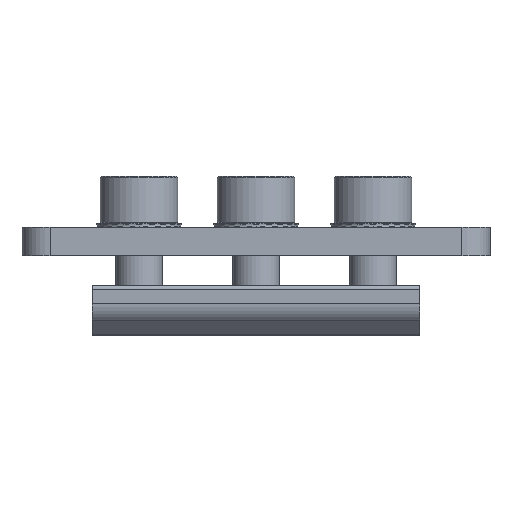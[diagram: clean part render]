
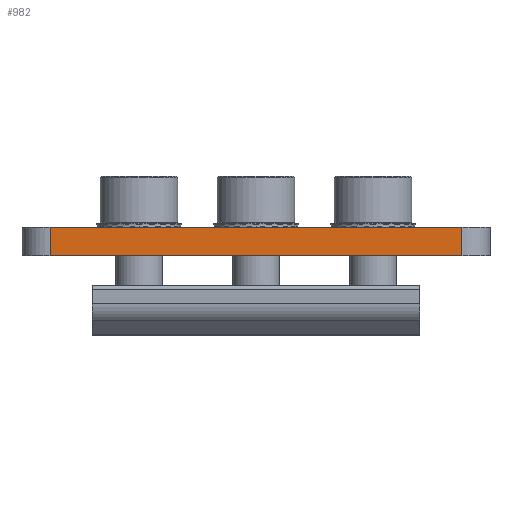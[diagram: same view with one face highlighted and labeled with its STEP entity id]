
A CAD part, front view. The second image highlights one B-rep face of the part: STEP entity #982.
In plain terms, the highlighted planar face has unit normal (0, -1, 0).
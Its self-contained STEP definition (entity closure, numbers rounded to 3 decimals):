
#982 = ADVANCED_FACE ( 'NONE', ( #2202 ), #2441, .T. ) ;
#997 = ORIENTED_EDGE ( 'NONE', *, *, #8386, .T. ) ;
#1328 = DIRECTION ( 'NONE',  ( 0., 0., -1. ) ) ;
#1442 = CARTESIAN_POINT ( 'NONE',  ( -28.095, -9.236, 5.732 ) ) ;
#1889 = VECTOR ( 'NONE', #5109, 1000. ) ;
#1961 = LINE ( 'NONE', #2639, #4501 ) ;
#2011 = ORIENTED_EDGE ( 'NONE', *, *, #3530, .F. ) ;
#2202 = FACE_OUTER_BOUND ( 'NONE', #2866, .T. ) ;
#2262 = ORIENTED_EDGE ( 'NONE', *, *, #4082, .F. ) ;
#2345 = EDGE_CURVE ( 'NONE', #4523, #7176, #5847, .T. ) ;
#2441 = PLANE ( 'NONE',  #3028 ) ;
#2454 = VECTOR ( 'NONE', #7985, 1000. ) ;
#2639 = CARTESIAN_POINT ( 'NONE',  ( -28.095, -9.236, 8.732 ) ) ;
#2866 = EDGE_LOOP ( 'NONE', ( #2011, #2262, #997, #7732 ) ) ;
#3028 = AXIS2_PLACEMENT_3D ( 'NONE', #4619, #3256, #1328 ) ;
#3256 = DIRECTION ( 'NONE',  ( 0., -1., 0. ) ) ;
#3496 = DIRECTION ( 'NONE',  ( -1., 0., 0. ) ) ;
#3522 = CARTESIAN_POINT ( 'NONE',  ( -28.095, -9.236, 5.732 ) ) ;
#3530 = EDGE_CURVE ( 'NONE', #7736, #7176, #5928, .T. ) ;
#3697 = CARTESIAN_POINT ( 'NONE',  ( -72.095, -9.236, 8.732 ) ) ;
#4082 = EDGE_CURVE ( 'NONE', #5943, #7736, #1961, .T. ) ;
#4245 = CARTESIAN_POINT ( 'NONE',  ( -72.095, -9.236, 5.732 ) ) ;
#4501 = VECTOR ( 'NONE', #7560, 1000. ) ;
#4523 = VERTEX_POINT ( 'NONE', #8058 ) ;
#4619 = CARTESIAN_POINT ( 'NONE',  ( -28.095, -9.236, 8.732 ) ) ;
#5109 = DIRECTION ( 'NONE',  ( 0., 0., -1. ) ) ;
#5846 = CARTESIAN_POINT ( 'NONE',  ( -28.095, -9.236, 8.732 ) ) ;
#5847 = LINE ( 'NONE', #3697, #1889 ) ;
#5928 = LINE ( 'NONE', #3522, #7583 ) ;
#5943 = VERTEX_POINT ( 'NONE', #5846 ) ;
#6174 = LINE ( 'NONE', #7279, #2454 ) ;
#7176 = VERTEX_POINT ( 'NONE', #4245 ) ;
#7279 = CARTESIAN_POINT ( 'NONE',  ( -28.095, -9.236, 8.732 ) ) ;
#7560 = DIRECTION ( 'NONE',  ( 0., 0., -1. ) ) ;
#7583 = VECTOR ( 'NONE', #3496, 1000. ) ;
#7732 = ORIENTED_EDGE ( 'NONE', *, *, #2345, .T. ) ;
#7736 = VERTEX_POINT ( 'NONE', #1442 ) ;
#7985 = DIRECTION ( 'NONE',  ( -1., 0., 0. ) ) ;
#8058 = CARTESIAN_POINT ( 'NONE',  ( -72.095, -9.236, 8.732 ) ) ;
#8386 = EDGE_CURVE ( 'NONE', #5943, #4523, #6174, .T. ) ;
